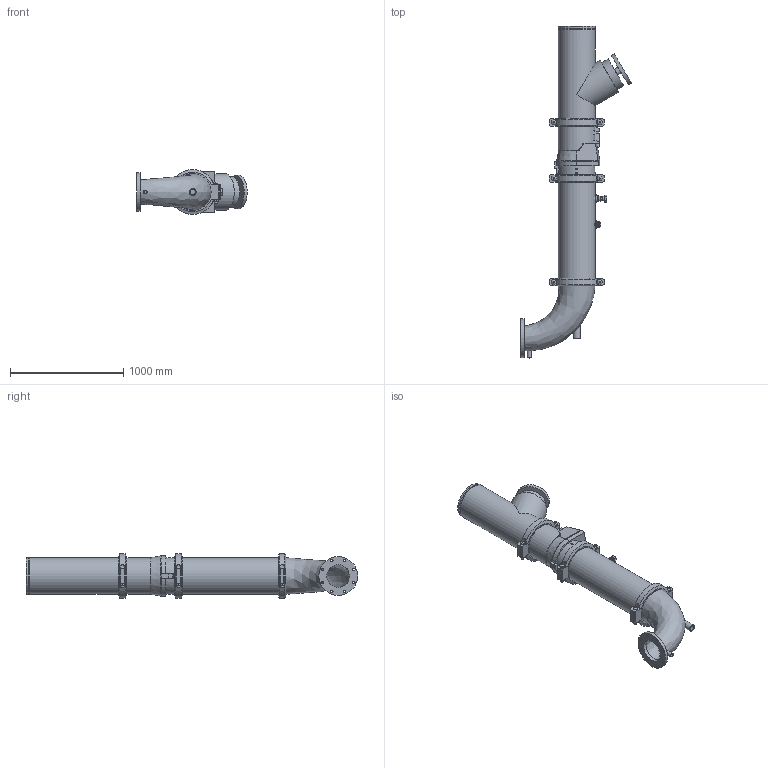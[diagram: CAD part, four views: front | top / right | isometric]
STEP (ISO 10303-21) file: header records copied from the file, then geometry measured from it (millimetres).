
FILE_DESCRIPTION(/* description */ ('VIC DVI PUMP DROP HORZ S/383 (OGSxFLG) (S/924-1.25)','CAx-IF Rec.Pracs.---Representation and Presentation of Product Manufacturing Information (PMI)---4.0---2014-10-13'),/* implementation_level */ '2;1');
FILE_NAME(/* name */ 'C:\Users\kkamble\AppData\Roaming\Autodesk\ApplicationPlugins\Victaulic.Temp\A821\CL 150_Series 383 (OGSxFLG)_924 (1.25)_12.0x08.0 (300x200).stp',/* time_stamp */ '2022-03-16T18:47:58+05:00',/* author */ ('kkamble'),/* organization */ ('Victaulic'),/* preprocessor_version */ 'ST-DEVELOPER v17.2',/* originating_system */ 'Autodesk Inventor 2019',/* authorisation */ '');
FILE_SCHEMA (('AP242_MANAGED_MODEL_BASED_3D_ENGINEERING_MIM_LF { 1 0 10303 442 1 1 4 }'));
Length unit declared in the file: inch
Products named in the file (8): 383_924 (1.25)-12.0x08.0; Pipe-12.0; 789-12.0; 779-12.0; 924-10.0x01.25; 923-10.0x0.75; R100F-12.0x08.0; 077-12.0
Assembly tree (9 placements, depth 2):
  383_924 (1.25)-12.0x08.0
    Pipe-12.0
    789-12.0
    779-12.0
    077-12.0  x3
    924-10.0x01.25
    923-10.0x0.75
    R100F-12.0x08.0
Bounding box: 977.9 x 2937 x 397 mm (x, y, z)
Volume: 65407088.6 mm3; surface area: 7644627.3 mm2
Topology: 9 solids, 16 shells, 449 faces, 1108 edges, 759 vertices
Faces by surface type: plane 268, cylinder 146, cone 17, bspline 12, torus 6
Full cylindrical faces by diameter (mm): 13.716 x4, 21.336 x2, 22.352 x8, 25.4 x12, 26.67 x3, 27.432 x6, 34.29 x1, 38.608 x1, 42.164 x1, 45.974 x4, 48.26 x1, 48.514 x1, 55.626 x2, 60.96 x2, 76.2 x1, 202.717 x1, 273.05 x1, 299.974 x1, 303.225 x2, 304.8 x2, 314.96 x3, 318.287 x7, 323.85 x18, 342.9 x1
Entity records: 12244 total; most frequent: CARTESIAN_POINT 3385, DIRECTION 1802, ORIENTED_EDGE 1636, EDGE_CURVE 818, AXIS2_PLACEMENT_3D 692, VERTEX_POINT 563, LINE 418, VECTOR 418
